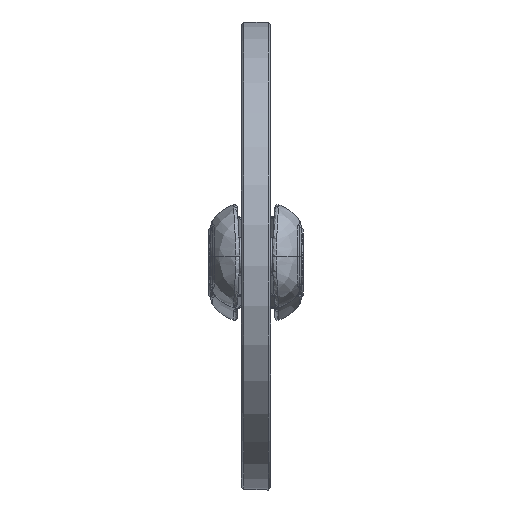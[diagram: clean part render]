
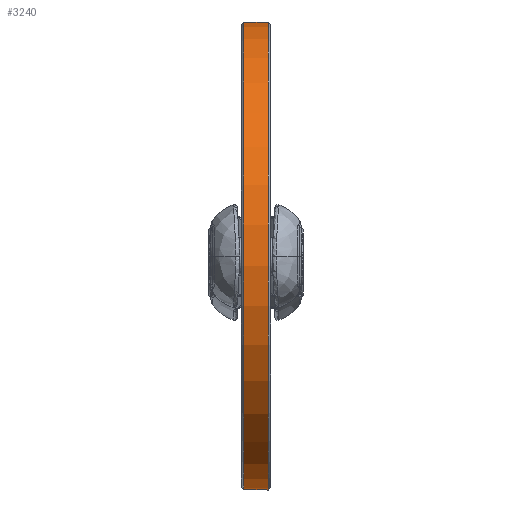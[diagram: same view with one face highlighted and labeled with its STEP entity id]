
A CAD part, top view. The second image highlights one B-rep face of the part: STEP entity #3240.
In plain terms, the highlighted cylindrical face has radius 277.5 mm (diameter 555 mm), a full revolution.
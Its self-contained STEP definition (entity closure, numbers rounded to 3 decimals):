
#793=FACE_BOUND($,#1497,.T.);
#985=CIRCLE($,#3599,277.5);
#986=CIRCLE($,#3601,277.5);
#1187=FACE_OUTER_BOUND($,#1496,.T.);
#1496=EDGE_LOOP($,(#2972));
#1497=EDGE_LOOP($,(#2973));
#1793=VERTEX_POINT($,#13839);
#1794=VERTEX_POINT($,#13842);
#2191=EDGE_CURVE($,#1793,#1793,#985,.T.);
#2192=EDGE_CURVE($,#1794,#1794,#986,.T.);
#2972=ORIENTED_EDGE($,*,*,#2192,.F.);
#2973=ORIENTED_EDGE($,*,*,#2191,.F.);
#3025=CYLINDRICAL_SURFACE($,#3600,277.5);
#3240=ADVANCED_FACE($,(#1187,#793),#3025,.T.);
#3599=AXIS2_PLACEMENT_3D($,#13840,#4378,#4379);
#3600=AXIS2_PLACEMENT_3D($,#13841,#4380,#4381);
#3601=AXIS2_PLACEMENT_3D($,#13843,#4382,#4383);
#4378=DIRECTION('center_axis',(0.,0.,-1.));
#4379=DIRECTION('ref_axis',(-1.,0.,0.));
#4380=DIRECTION('center_axis',(0.,0.,1.));
#4381=DIRECTION('ref_axis',(-1.,0.,0.));
#4382=DIRECTION('center_axis',(0.,0.,1.));
#4383=DIRECTION('ref_axis',(-1.,0.,0.));
#13839=CARTESIAN_POINT('',(277.5,0.,-14.5));
#13840=CARTESIAN_POINT('Origin',(0.,0.,-14.5));
#13841=CARTESIAN_POINT('Origin',(0.,0.,0.));
#13842=CARTESIAN_POINT('',(277.5,0.,14.5));
#13843=CARTESIAN_POINT('Origin',(0.,0.,14.5));
